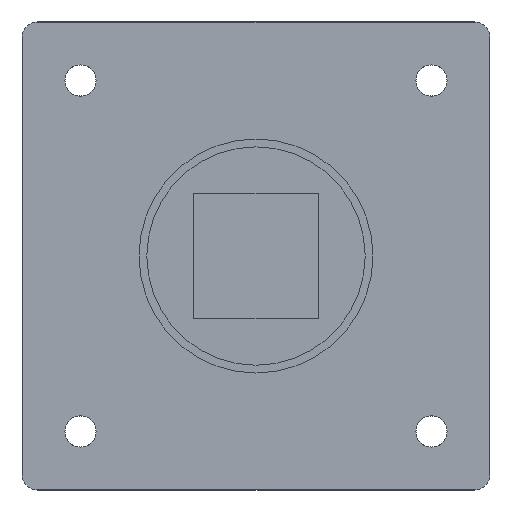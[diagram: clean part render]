
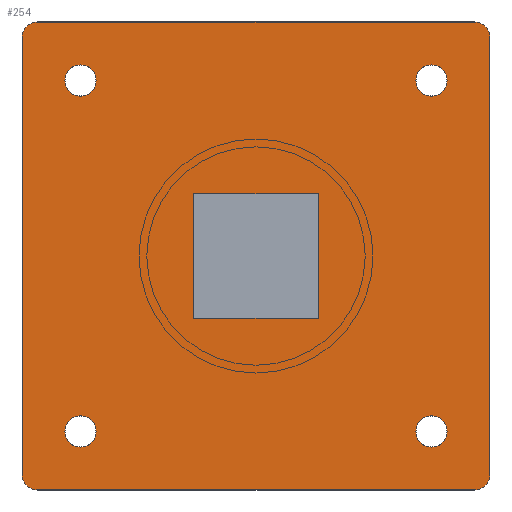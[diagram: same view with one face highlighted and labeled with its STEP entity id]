
A CAD part, top view. The second image highlights one B-rep face of the part: STEP entity #254.
In plain terms, the highlighted planar face has unit normal (0, 0, 1).
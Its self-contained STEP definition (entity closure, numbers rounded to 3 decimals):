
#204 = VERTEX_POINT( '', #573 );
#206 = VERTEX_POINT( '', #575 );
#218 = EDGE_CURVE( '', #238, #384, #587, .T. );
#232 = EDGE_CURVE( '', #270, #244, #602, .T. );
#234 = EDGE_CURVE( '', #244, #238, #604, .T. );
#238 = VERTEX_POINT( '', #608 );
#244 = VERTEX_POINT( '', #616 );
#254 = ADVANCED_FACE( '', ( #626, #627, #628, #629, #630, #631 ), #632, .T. );
#266 = EDGE_CURVE( '', #302, #270, #652, .T. );
#270 = VERTEX_POINT( '', #656 );
#272 = EDGE_CURVE( '', #458, #382, #658, .T. );
#282 = EDGE_CURVE( '', #316, #302, #670, .T. );
#302 = VERTEX_POINT( '', #693 );
#312 = EDGE_CURVE( '', #332, #316, #706, .T. );
#316 = VERTEX_POINT( '', #710 );
#332 = VERTEX_POINT( '', #728 );
#334 = EDGE_CURVE( '', #372, #332, #730, .T. );
#356 = VERTEX_POINT( '', #754 );
#362 = EDGE_CURVE( '', #384, #372, #760, .T. );
#372 = VERTEX_POINT( '', #770 );
#382 = VERTEX_POINT( '', #780 );
#384 = VERTEX_POINT( '', #782 );
#390 = EDGE_CURVE( '', #548, #520, #789, .T. );
#398 = EDGE_CURVE( '', #464, #400, #799, .T. );
#400 = VERTEX_POINT( '', #801 );
#406 = EDGE_CURVE( '', #414, #356, #807, .T. );
#414 = VERTEX_POINT( '', #817 );
#416 = EDGE_CURVE( '', #382, #458, #819, .T. );
#422 = EDGE_CURVE( '', #520, #548, #825, .T. );
#432 = EDGE_CURVE( '', #454, #204, #836, .T. );
#442 = EDGE_CURVE( '', #488, #454, #846, .T. );
#454 = VERTEX_POINT( '', #861 );
#456 = EDGE_CURVE( '', #400, #464, #863, .T. );
#458 = VERTEX_POINT( '', #865 );
#464 = VERTEX_POINT( '', #871 );
#478 = EDGE_CURVE( '', #206, #488, #888, .T. );
#488 = VERTEX_POINT( '', #899 );
#520 = VERTEX_POINT( '', #934 );
#532 = EDGE_CURVE( '', #204, #206, #946, .T. );
#546 = EDGE_CURVE( '', #356, #414, #962, .T. );
#548 = VERTEX_POINT( '', #964 );
#573 = CARTESIAN_POINT( '', ( 8., -8., 0. ) );
#575 = CARTESIAN_POINT( '', ( -8., -8., 0. ) );
#587 = CIRCLE( '', #994, 2. );
#602 = CIRCLE( '', #1015, 2. );
#604 = LINE( '', #1018, #1019 );
#608 = CARTESIAN_POINT( '', ( -28., -30., 0. ) );
#616 = CARTESIAN_POINT( '', ( 28., -30., 0. ) );
#626 = FACE_BOUND( '', #1047, .T. );
#627 = FACE_OUTER_BOUND( '', #1048, .T. );
#628 = FACE_BOUND( '', #1049, .T. );
#629 = FACE_BOUND( '', #1050, .T. );
#630 = FACE_BOUND( '', #1051, .T. );
#631 = FACE_BOUND( '', #1052, .T. );
#632 = PLANE( '', #1053 );
#652 = LINE( '', #1076, #1077 );
#656 = CARTESIAN_POINT( '', ( 30., -28., 0. ) );
#658 = CIRCLE( '', #1085, 2. );
#670 = CIRCLE( '', #1100, 2. );
#693 = CARTESIAN_POINT( '', ( 30., 28., 0. ) );
#706 = LINE( '', #1149, #1150 );
#710 = CARTESIAN_POINT( '', ( 28., 30., 0. ) );
#728 = CARTESIAN_POINT( '', ( -28., 30., 0. ) );
#730 = CIRCLE( '', #1180, 2. );
#754 = CARTESIAN_POINT( '', ( -24.5, -22.5, 0. ) );
#760 = LINE( '', #1220, #1221 );
#770 = CARTESIAN_POINT( '', ( -30., 28., 0. ) );
#780 = CARTESIAN_POINT( '', ( -20.5, 22.5, 0. ) );
#782 = CARTESIAN_POINT( '', ( -30., -28., 0. ) );
#789 = CIRCLE( '', #1259, 2. );
#799 = CIRCLE( '', #1270, 2. );
#801 = CARTESIAN_POINT( '', ( 20.5, 22.5, 0. ) );
#807 = CIRCLE( '', #1281, 2. );
#817 = CARTESIAN_POINT( '', ( -20.5, -22.5, 0. ) );
#819 = CIRCLE( '', #1294, 2. );
#825 = CIRCLE( '', #1303, 2. );
#836 = LINE( '', #1320, #1321 );
#846 = LINE( '', #1337, #1338 );
#861 = CARTESIAN_POINT( '', ( 8., 8., 0. ) );
#863 = CIRCLE( '', #1359, 2. );
#865 = CARTESIAN_POINT( '', ( -24.5, 22.5, 0. ) );
#871 = CARTESIAN_POINT( '', ( 24.5, 22.5, 0. ) );
#888 = LINE( '', #1392, #1393 );
#899 = CARTESIAN_POINT( '', ( -8., 8., 0. ) );
#934 = CARTESIAN_POINT( '', ( 20.5, -22.5, 0. ) );
#946 = LINE( '', #1471, #1472 );
#962 = CIRCLE( '', #1493, 2. );
#964 = CARTESIAN_POINT( '', ( 24.5, -22.5, 0. ) );
#994 = AXIS2_PLACEMENT_3D( '', #1513, #1514, #1515 );
#1015 = AXIS2_PLACEMENT_3D( '', #1529, #1530, #1531 );
#1018 = CARTESIAN_POINT( '', ( -28., -30., 0. ) );
#1019 = VECTOR( '', #1532, 1. );
#1047 = EDGE_LOOP( '', ( #1553, #1554, #1555, #1556 ) );
#1048 = EDGE_LOOP( '', ( #1557, #1558, #1559, #1560, #1561, #1562, #1563, #1564 ) );
#1049 = EDGE_LOOP( '', ( #1565, #1566 ) );
#1050 = EDGE_LOOP( '', ( #1567, #1568 ) );
#1051 = EDGE_LOOP( '', ( #1569, #1570 ) );
#1052 = EDGE_LOOP( '', ( #1571, #1572 ) );
#1053 = AXIS2_PLACEMENT_3D( '', #1573, #1574, #1575 );
#1076 = CARTESIAN_POINT( '', ( 30., -28., 0. ) );
#1077 = VECTOR( '', #1615, 1. );
#1085 = AXIS2_PLACEMENT_3D( '', #1619, #1620, #1621 );
#1100 = AXIS2_PLACEMENT_3D( '', #1639, #1640, #1641 );
#1149 = CARTESIAN_POINT( '', ( 28., 30., 0. ) );
#1150 = VECTOR( '', #1687, 1. );
#1180 = AXIS2_PLACEMENT_3D( '', #1714, #1715, #1716 );
#1220 = CARTESIAN_POINT( '', ( -30., 28., 0. ) );
#1221 = VECTOR( '', #1745, 1. );
#1259 = AXIS2_PLACEMENT_3D( '', #1768, #1769, #1770 );
#1270 = AXIS2_PLACEMENT_3D( '', #1787, #1788, #1789 );
#1281 = AXIS2_PLACEMENT_3D( '', #1796, #1797, #1798 );
#1294 = AXIS2_PLACEMENT_3D( '', #1813, #1814, #1815 );
#1303 = AXIS2_PLACEMENT_3D( '', #1817, #1818, #1819 );
#1320 = CARTESIAN_POINT( '', ( 8., 4., 0. ) );
#1321 = VECTOR( '', #1833, 1. );
#1337 = CARTESIAN_POINT( '', ( -4., 8., 0. ) );
#1338 = VECTOR( '', #1839, 1. );
#1359 = AXIS2_PLACEMENT_3D( '', #1860, #1861, #1862 );
#1392 = CARTESIAN_POINT( '', ( -8., -4., 0. ) );
#1393 = VECTOR( '', #1891, 1. );
#1471 = CARTESIAN_POINT( '', ( 4., -8., 0. ) );
#1472 = VECTOR( '', #1946, 1. );
#1493 = AXIS2_PLACEMENT_3D( '', #1970, #1971, #1972 );
#1513 = CARTESIAN_POINT( '', ( -28., -28., 0. ) );
#1514 = DIRECTION( '', ( 0., 0., -1. ) );
#1515 = DIRECTION( '', ( -1., 0., 0. ) );
#1529 = CARTESIAN_POINT( '', ( 28., -28., 0. ) );
#1530 = DIRECTION( '', ( 0., 0., -1. ) );
#1531 = DIRECTION( '', ( 0., -1., 0. ) );
#1532 = DIRECTION( '', ( -1., 0., 0. ) );
#1553 = ORIENTED_EDGE( '', *, *, #442, .T. );
#1554 = ORIENTED_EDGE( '', *, *, #432, .T. );
#1555 = ORIENTED_EDGE( '', *, *, #532, .T. );
#1556 = ORIENTED_EDGE( '', *, *, #478, .T. );
#1557 = ORIENTED_EDGE( '', *, *, #362, .F. );
#1558 = ORIENTED_EDGE( '', *, *, #218, .F. );
#1559 = ORIENTED_EDGE( '', *, *, #234, .F. );
#1560 = ORIENTED_EDGE( '', *, *, #232, .F. );
#1561 = ORIENTED_EDGE( '', *, *, #266, .F. );
#1562 = ORIENTED_EDGE( '', *, *, #282, .F. );
#1563 = ORIENTED_EDGE( '', *, *, #312, .F. );
#1564 = ORIENTED_EDGE( '', *, *, #334, .F. );
#1565 = ORIENTED_EDGE( '', *, *, #390, .F. );
#1566 = ORIENTED_EDGE( '', *, *, #422, .F. );
#1567 = ORIENTED_EDGE( '', *, *, #398, .F. );
#1568 = ORIENTED_EDGE( '', *, *, #456, .F. );
#1569 = ORIENTED_EDGE( '', *, *, #406, .F. );
#1570 = ORIENTED_EDGE( '', *, *, #546, .F. );
#1571 = ORIENTED_EDGE( '', *, *, #416, .F. );
#1572 = ORIENTED_EDGE( '', *, *, #272, .F. );
#1573 = CARTESIAN_POINT( '', ( 0., 0., 0. ) );
#1574 = DIRECTION( '', ( 0., 0., 1. ) );
#1575 = DIRECTION( '', ( 1., 0., 0. ) );
#1615 = DIRECTION( '', ( 0., -1., 0. ) );
#1619 = CARTESIAN_POINT( '', ( -22.5, 22.5, 0. ) );
#1620 = DIRECTION( '', ( 0., 0., 1. ) );
#1621 = DIRECTION( '', ( 1., 0., 0. ) );
#1639 = CARTESIAN_POINT( '', ( 28., 28., 0. ) );
#1640 = DIRECTION( '', ( 0., 0., -1. ) );
#1641 = DIRECTION( '', ( 1., 0., 0. ) );
#1687 = DIRECTION( '', ( 1., 0., 0. ) );
#1714 = CARTESIAN_POINT( '', ( -28., 28., 0. ) );
#1715 = DIRECTION( '', ( 0., 0., -1. ) );
#1716 = DIRECTION( '', ( 0., 1., 0. ) );
#1745 = DIRECTION( '', ( 0., 1., 0. ) );
#1768 = CARTESIAN_POINT( '', ( 22.5, -22.5, 0. ) );
#1769 = DIRECTION( '', ( 0., 0., 1. ) );
#1770 = DIRECTION( '', ( 1., 0., 0. ) );
#1787 = CARTESIAN_POINT( '', ( 22.5, 22.5, 0. ) );
#1788 = DIRECTION( '', ( 0., 0., 1. ) );
#1789 = DIRECTION( '', ( 1., 0., 0. ) );
#1796 = CARTESIAN_POINT( '', ( -22.5, -22.5, 0. ) );
#1797 = DIRECTION( '', ( 0., 0., 1. ) );
#1798 = DIRECTION( '', ( 1., 0., 0. ) );
#1813 = CARTESIAN_POINT( '', ( -22.5, 22.5, 0. ) );
#1814 = DIRECTION( '', ( 0., 0., 1. ) );
#1815 = DIRECTION( '', ( 1., 0., 0. ) );
#1817 = CARTESIAN_POINT( '', ( 22.5, -22.5, 0. ) );
#1818 = DIRECTION( '', ( 0., 0., 1. ) );
#1819 = DIRECTION( '', ( 1., 0., 0. ) );
#1833 = DIRECTION( '', ( 0., -1., 0. ) );
#1839 = DIRECTION( '', ( 1., 0., 0. ) );
#1860 = CARTESIAN_POINT( '', ( 22.5, 22.5, 0. ) );
#1861 = DIRECTION( '', ( 0., 0., 1. ) );
#1862 = DIRECTION( '', ( 1., 0., 0. ) );
#1891 = DIRECTION( '', ( 0., 1., 0. ) );
#1946 = DIRECTION( '', ( -1., 0., 0. ) );
#1970 = CARTESIAN_POINT( '', ( -22.5, -22.5, 0. ) );
#1971 = DIRECTION( '', ( 0., 0., 1. ) );
#1972 = DIRECTION( '', ( 1., 0., 0. ) );
